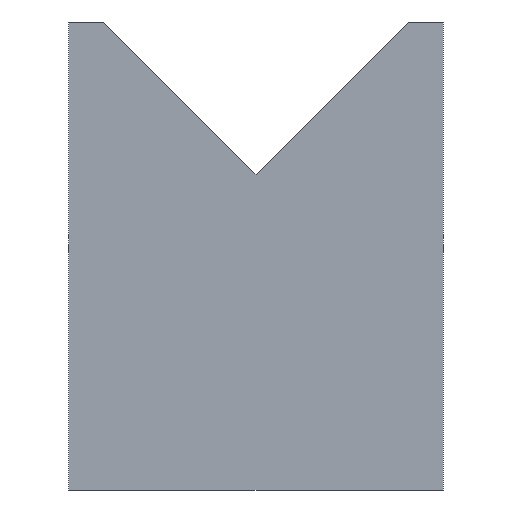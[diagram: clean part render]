
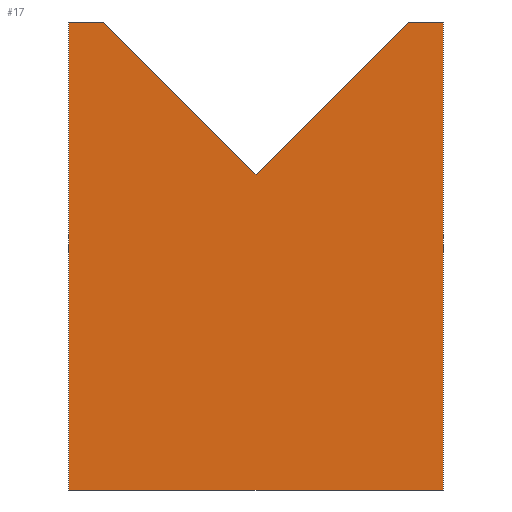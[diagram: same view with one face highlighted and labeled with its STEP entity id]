
A CAD part, left-side view. The second image highlights one B-rep face of the part: STEP entity #17.
In plain terms, the highlighted planar face has unit normal (-1, 0, 0).
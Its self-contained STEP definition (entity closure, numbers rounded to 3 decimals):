
#17 = ADVANCED_FACE('',(#18),#32,.F.);
#18 = FACE_BOUND('',#19,.F.);
#19 = EDGE_LOOP('',(#20,#55,#83,#111,#139,#167,#195));
#20 = ORIENTED_EDGE('',*,*,#21,.F.);
#21 = EDGE_CURVE('',#22,#24,#26,.T.);
#22 = VERTEX_POINT('',#23);
#23 = CARTESIAN_POINT('',(-5.,-16.,40.));
#24 = VERTEX_POINT('',#25);
#25 = CARTESIAN_POINT('',(-5.,-13.,40.));
#26 = SURFACE_CURVE('',#27,(#31,#43),.PCURVE_S1.);
#27 = LINE('',#28,#29);
#28 = CARTESIAN_POINT('',(-5.,-16.,40.));
#29 = VECTOR('',#30,1.);
#30 = DIRECTION('',(0.,1.,0.));
#31 = PCURVE('',#32,#37);
#32 = PLANE('',#33);
#33 = AXIS2_PLACEMENT_3D('',#34,#35,#36);
#34 = CARTESIAN_POINT('',(-5.,-16.,0.));
#35 = DIRECTION('',(1.,0.,0.));
#36 = DIRECTION('',(0.,0.,1.));
#37 = DEFINITIONAL_REPRESENTATION('',(#38),#42);
#38 = LINE('',#39,#40);
#39 = CARTESIAN_POINT('',(40.,0.));
#40 = VECTOR('',#41,1.);
#41 = DIRECTION('',(0.,-1.));
#42 = ( GEOMETRIC_REPRESENTATION_CONTEXT(2) 
PARAMETRIC_REPRESENTATION_CONTEXT() REPRESENTATION_CONTEXT('2D SPACE',''
  ) );
#43 = PCURVE('',#44,#49);
#44 = PLANE('',#45);
#45 = AXIS2_PLACEMENT_3D('',#46,#47,#48);
#46 = CARTESIAN_POINT('',(-5.,-16.,40.));
#47 = DIRECTION('',(0.,0.,1.));
#48 = DIRECTION('',(1.,0.,0.));
#49 = DEFINITIONAL_REPRESENTATION('',(#50),#54);
#50 = LINE('',#51,#52);
#51 = CARTESIAN_POINT('',(0.,0.));
#52 = VECTOR('',#53,1.);
#53 = DIRECTION('',(0.,1.));
#54 = ( GEOMETRIC_REPRESENTATION_CONTEXT(2) 
PARAMETRIC_REPRESENTATION_CONTEXT() REPRESENTATION_CONTEXT('2D SPACE',''
  ) );
#55 = ORIENTED_EDGE('',*,*,#56,.F.);
#56 = EDGE_CURVE('',#57,#22,#59,.T.);
#57 = VERTEX_POINT('',#58);
#58 = CARTESIAN_POINT('',(-5.,-16.,0.));
#59 = SURFACE_CURVE('',#60,(#64,#71),.PCURVE_S1.);
#60 = LINE('',#61,#62);
#61 = CARTESIAN_POINT('',(-5.,-16.,0.));
#62 = VECTOR('',#63,1.);
#63 = DIRECTION('',(0.,0.,1.));
#64 = PCURVE('',#32,#65);
#65 = DEFINITIONAL_REPRESENTATION('',(#66),#70);
#66 = LINE('',#67,#68);
#67 = CARTESIAN_POINT('',(0.,0.));
#68 = VECTOR('',#69,1.);
#69 = DIRECTION('',(1.,0.));
#70 = ( GEOMETRIC_REPRESENTATION_CONTEXT(2) 
PARAMETRIC_REPRESENTATION_CONTEXT() REPRESENTATION_CONTEXT('2D SPACE',''
  ) );
#71 = PCURVE('',#72,#77);
#72 = PLANE('',#73);
#73 = AXIS2_PLACEMENT_3D('',#74,#75,#76);
#74 = CARTESIAN_POINT('',(-5.,-16.,0.));
#75 = DIRECTION('',(0.,1.,0.));
#76 = DIRECTION('',(0.,0.,1.));
#77 = DEFINITIONAL_REPRESENTATION('',(#78),#82);
#78 = LINE('',#79,#80);
#79 = CARTESIAN_POINT('',(0.,0.));
#80 = VECTOR('',#81,1.);
#81 = DIRECTION('',(1.,0.));
#82 = ( GEOMETRIC_REPRESENTATION_CONTEXT(2) 
PARAMETRIC_REPRESENTATION_CONTEXT() REPRESENTATION_CONTEXT('2D SPACE',''
  ) );
#83 = ORIENTED_EDGE('',*,*,#84,.T.);
#84 = EDGE_CURVE('',#57,#85,#87,.T.);
#85 = VERTEX_POINT('',#86);
#86 = CARTESIAN_POINT('',(-5.,16.,0.));
#87 = SURFACE_CURVE('',#88,(#92,#99),.PCURVE_S1.);
#88 = LINE('',#89,#90);
#89 = CARTESIAN_POINT('',(-5.,-16.,0.));
#90 = VECTOR('',#91,1.);
#91 = DIRECTION('',(0.,1.,0.));
#92 = PCURVE('',#32,#93);
#93 = DEFINITIONAL_REPRESENTATION('',(#94),#98);
#94 = LINE('',#95,#96);
#95 = CARTESIAN_POINT('',(0.,0.));
#96 = VECTOR('',#97,1.);
#97 = DIRECTION('',(0.,-1.));
#98 = ( GEOMETRIC_REPRESENTATION_CONTEXT(2) 
PARAMETRIC_REPRESENTATION_CONTEXT() REPRESENTATION_CONTEXT('2D SPACE',''
  ) );
#99 = PCURVE('',#100,#105);
#100 = PLANE('',#101);
#101 = AXIS2_PLACEMENT_3D('',#102,#103,#104);
#102 = CARTESIAN_POINT('',(-5.,-16.,0.));
#103 = DIRECTION('',(0.,0.,1.));
#104 = DIRECTION('',(1.,0.,0.));
#105 = DEFINITIONAL_REPRESENTATION('',(#106),#110);
#106 = LINE('',#107,#108);
#107 = CARTESIAN_POINT('',(0.,0.));
#108 = VECTOR('',#109,1.);
#109 = DIRECTION('',(0.,1.));
#110 = ( GEOMETRIC_REPRESENTATION_CONTEXT(2) 
PARAMETRIC_REPRESENTATION_CONTEXT() REPRESENTATION_CONTEXT('2D SPACE',''
  ) );
#111 = ORIENTED_EDGE('',*,*,#112,.T.);
#112 = EDGE_CURVE('',#85,#113,#115,.T.);
#113 = VERTEX_POINT('',#114);
#114 = CARTESIAN_POINT('',(-5.,16.,40.));
#115 = SURFACE_CURVE('',#116,(#120,#127),.PCURVE_S1.);
#116 = LINE('',#117,#118);
#117 = CARTESIAN_POINT('',(-5.,16.,0.));
#118 = VECTOR('',#119,1.);
#119 = DIRECTION('',(0.,0.,1.));
#120 = PCURVE('',#32,#121);
#121 = DEFINITIONAL_REPRESENTATION('',(#122),#126);
#122 = LINE('',#123,#124);
#123 = CARTESIAN_POINT('',(0.,-32.));
#124 = VECTOR('',#125,1.);
#125 = DIRECTION('',(1.,0.));
#126 = ( GEOMETRIC_REPRESENTATION_CONTEXT(2) 
PARAMETRIC_REPRESENTATION_CONTEXT() REPRESENTATION_CONTEXT('2D SPACE',''
  ) );
#127 = PCURVE('',#128,#133);
#128 = PLANE('',#129);
#129 = AXIS2_PLACEMENT_3D('',#130,#131,#132);
#130 = CARTESIAN_POINT('',(-5.,16.,0.));
#131 = DIRECTION('',(0.,1.,0.));
#132 = DIRECTION('',(0.,0.,1.));
#133 = DEFINITIONAL_REPRESENTATION('',(#134),#138);
#134 = LINE('',#135,#136);
#135 = CARTESIAN_POINT('',(0.,0.));
#136 = VECTOR('',#137,1.);
#137 = DIRECTION('',(1.,0.));
#138 = ( GEOMETRIC_REPRESENTATION_CONTEXT(2) 
PARAMETRIC_REPRESENTATION_CONTEXT() REPRESENTATION_CONTEXT('2D SPACE',''
  ) );
#139 = ORIENTED_EDGE('',*,*,#140,.F.);
#140 = EDGE_CURVE('',#141,#113,#143,.T.);
#141 = VERTEX_POINT('',#142);
#142 = CARTESIAN_POINT('',(-5.,13.,40.));
#143 = SURFACE_CURVE('',#144,(#148,#155),.PCURVE_S1.);
#144 = LINE('',#145,#146);
#145 = CARTESIAN_POINT('',(-5.,-16.,40.));
#146 = VECTOR('',#147,1.);
#147 = DIRECTION('',(0.,1.,0.));
#148 = PCURVE('',#32,#149);
#149 = DEFINITIONAL_REPRESENTATION('',(#150),#154);
#150 = LINE('',#151,#152);
#151 = CARTESIAN_POINT('',(40.,0.));
#152 = VECTOR('',#153,1.);
#153 = DIRECTION('',(0.,-1.));
#154 = ( GEOMETRIC_REPRESENTATION_CONTEXT(2) 
PARAMETRIC_REPRESENTATION_CONTEXT() REPRESENTATION_CONTEXT('2D SPACE',''
  ) );
#155 = PCURVE('',#156,#161);
#156 = PLANE('',#157);
#157 = AXIS2_PLACEMENT_3D('',#158,#159,#160);
#158 = CARTESIAN_POINT('',(-5.,-16.,40.));
#159 = DIRECTION('',(0.,0.,1.));
#160 = DIRECTION('',(1.,0.,0.));
#161 = DEFINITIONAL_REPRESENTATION('',(#162),#166);
#162 = LINE('',#163,#164);
#163 = CARTESIAN_POINT('',(0.,0.));
#164 = VECTOR('',#165,1.);
#165 = DIRECTION('',(0.,1.));
#166 = ( GEOMETRIC_REPRESENTATION_CONTEXT(2) 
PARAMETRIC_REPRESENTATION_CONTEXT() REPRESENTATION_CONTEXT('2D SPACE',''
  ) );
#167 = ORIENTED_EDGE('',*,*,#168,.T.);
#168 = EDGE_CURVE('',#141,#169,#171,.T.);
#169 = VERTEX_POINT('',#170);
#170 = CARTESIAN_POINT('',(-5.,0.,27.));
#171 = SURFACE_CURVE('',#172,(#176,#183),.PCURVE_S1.);
#172 = LINE('',#173,#174);
#173 = CARTESIAN_POINT('',(-5.,-10.75,16.25));
#174 = VECTOR('',#175,1.);
#175 = DIRECTION('',(0.,-0.707,-0.707));
#176 = PCURVE('',#32,#177);
#177 = DEFINITIONAL_REPRESENTATION('',(#178),#182);
#178 = LINE('',#179,#180);
#179 = CARTESIAN_POINT('',(16.25,-5.25));
#180 = VECTOR('',#181,1.);
#181 = DIRECTION('',(-0.707,0.707));
#182 = ( GEOMETRIC_REPRESENTATION_CONTEXT(2) 
PARAMETRIC_REPRESENTATION_CONTEXT() REPRESENTATION_CONTEXT('2D SPACE',''
  ) );
#183 = PCURVE('',#184,#189);
#184 = PLANE('',#185);
#185 = AXIS2_PLACEMENT_3D('',#186,#187,#188);
#186 = CARTESIAN_POINT('',(0.,0.,27.));
#187 = DIRECTION('',(0.,-0.707,0.707));
#188 = DIRECTION('',(0.,0.707,0.707));
#189 = DEFINITIONAL_REPRESENTATION('',(#190),#194);
#190 = LINE('',#191,#192);
#191 = CARTESIAN_POINT('',(-15.203,5.));
#192 = VECTOR('',#193,1.);
#193 = DIRECTION('',(-1.,-0.));
#194 = ( GEOMETRIC_REPRESENTATION_CONTEXT(2) 
PARAMETRIC_REPRESENTATION_CONTEXT() REPRESENTATION_CONTEXT('2D SPACE',''
  ) );
#195 = ORIENTED_EDGE('',*,*,#196,.T.);
#196 = EDGE_CURVE('',#169,#24,#197,.T.);
#197 = SURFACE_CURVE('',#198,(#202,#209),.PCURVE_S1.);
#198 = LINE('',#199,#200);
#199 = CARTESIAN_POINT('',(-5.,-4.25,31.25));
#200 = VECTOR('',#201,1.);
#201 = DIRECTION('',(0.,-0.707,0.707));
#202 = PCURVE('',#32,#203);
#203 = DEFINITIONAL_REPRESENTATION('',(#204),#208);
#204 = LINE('',#205,#206);
#205 = CARTESIAN_POINT('',(31.25,-11.75));
#206 = VECTOR('',#207,1.);
#207 = DIRECTION('',(0.707,0.707));
#208 = ( GEOMETRIC_REPRESENTATION_CONTEXT(2) 
PARAMETRIC_REPRESENTATION_CONTEXT() REPRESENTATION_CONTEXT('2D SPACE',''
  ) );
#209 = PCURVE('',#210,#215);
#210 = PLANE('',#211);
#211 = AXIS2_PLACEMENT_3D('',#212,#213,#214);
#212 = CARTESIAN_POINT('',(0.,-14.,41.));
#213 = DIRECTION('',(-0.,0.707,0.707));
#214 = DIRECTION('',(0.,0.707,-0.707));
#215 = DEFINITIONAL_REPRESENTATION('',(#216),#220);
#216 = LINE('',#217,#218);
#217 = CARTESIAN_POINT('',(13.789,5.));
#218 = VECTOR('',#219,1.);
#219 = DIRECTION('',(-1.,-0.));
#220 = ( GEOMETRIC_REPRESENTATION_CONTEXT(2) 
PARAMETRIC_REPRESENTATION_CONTEXT() REPRESENTATION_CONTEXT('2D SPACE',''
  ) );
